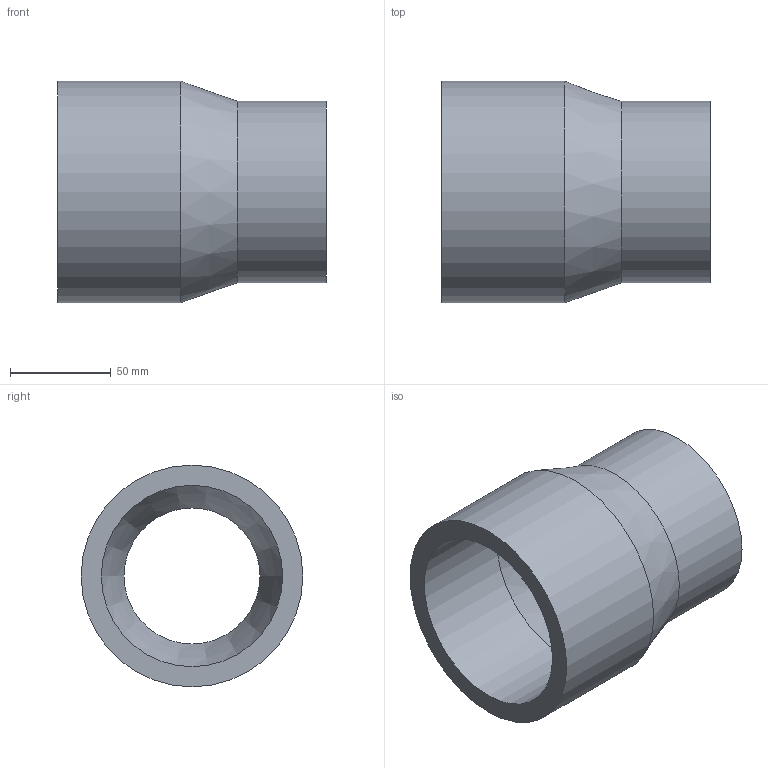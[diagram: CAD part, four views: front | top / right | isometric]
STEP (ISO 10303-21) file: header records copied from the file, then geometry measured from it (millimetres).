
FILE_DESCRIPTION(/* description */ ('PLASSON REDUCING SOCKET M.F.110(90)75 CEMENTED'),/* implementation_level */ '2;1');
FILE_NAME(/* name */ 'C:\Dropbox\KIMPROJECTS-Inventor\99-16-3568-Processing\PVC Catalog 2017\050200\050200110075.ipt.stp',/* time_stamp */ '2017-12-07T15:52:51+02:00',/* author */ ('KIM'),/* organization */ (''),/* preprocessor_version */ 'ST-DEVELOPER v15.6',/* originating_system */ 'Autodesk Inventor 2015',/* authorisation */ '');
FILE_SCHEMA (('AUTOMOTIVE_DESIGN { 1 0 10303 214 3 1 1 }'));
Length unit declared in the file: millimetre
Products named in the file (1): 050200110075
Bounding box: 133 x 110 x 110 mm (x, y, z)
Volume: 383698.1 mm3; surface area: 83227 mm2
Topology: 1 solids, 1 shells, 10 faces, 17 edges, 10 vertices
Faces by surface type: cylinder 5, plane 3, cone 2
Full cylindrical faces by diameter (mm): 67.5 x1, 75 x1, 90 x2, 110 x1
Entity records: 232 total; most frequent: DIRECTION 42, CARTESIAN_POINT 31, AXIS2_PLACEMENT_3D 21, EDGE_LOOP 20, ORIENTED_EDGE 20, FACE_BOUND 10, FACE_OUTER_BOUND 10, CIRCLE 10
